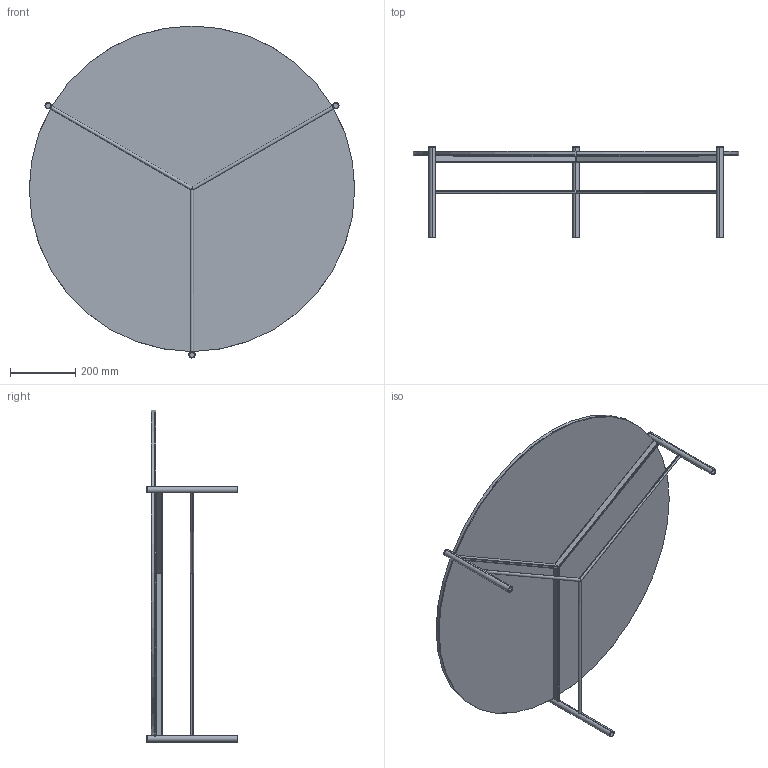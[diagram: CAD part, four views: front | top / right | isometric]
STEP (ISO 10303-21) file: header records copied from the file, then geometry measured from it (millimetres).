
FILE_DESCRIPTION (( 'STEP AP203' ), '1' );
FILE_NAME ('J103G.STEP', '2024-08-06T11:32:30', ( '' ), ( '' ), 'SwSTEP 2.0', 'SolidWorks 2022', '' );
FILE_SCHEMA (( 'CONFIG_CONTROL_DESIGN' ));
Length unit declared in the file: millimetre
Products named in the file (3): JXXXS00000000-00-jack metallo grezzo tutte le misure_J103S00000000-JACK TAVOLINO D.100x26h<A macchina>; C1XCRMXX-00-piani Rotondi Cristallo_C03 D.100cm; J103G
Assembly tree (2 placements, depth 2):
  J103G
    JXXXS00000000-00-jack metallo grezzo tutte le misure_J103S00000000-JACK TAVOLINO D.100x26h<A macchina>
    C1XCRMXX-00-piani Rotondi Cristallo_C03 D.100cm
Bounding box: 1000 x 279 x 1020.07 mm (x, y, z)
Volume: 10423882.1 mm3; surface area: 3515526.1 mm2
Topology: 14 solids, 14 shells, 125 faces, 293 edges, 194 vertices
Faces by surface type: cylinder 73, plane 52
Entity records: 4508 total; most frequent: CARTESIAN_POINT 1441, ORIENTED_EDGE 586, DIRECTION 541, EDGE_CURVE 293, AXIS2_PLACEMENT_3D 196, VERTEX_POINT 194, VECTOR 149, LINE 149
